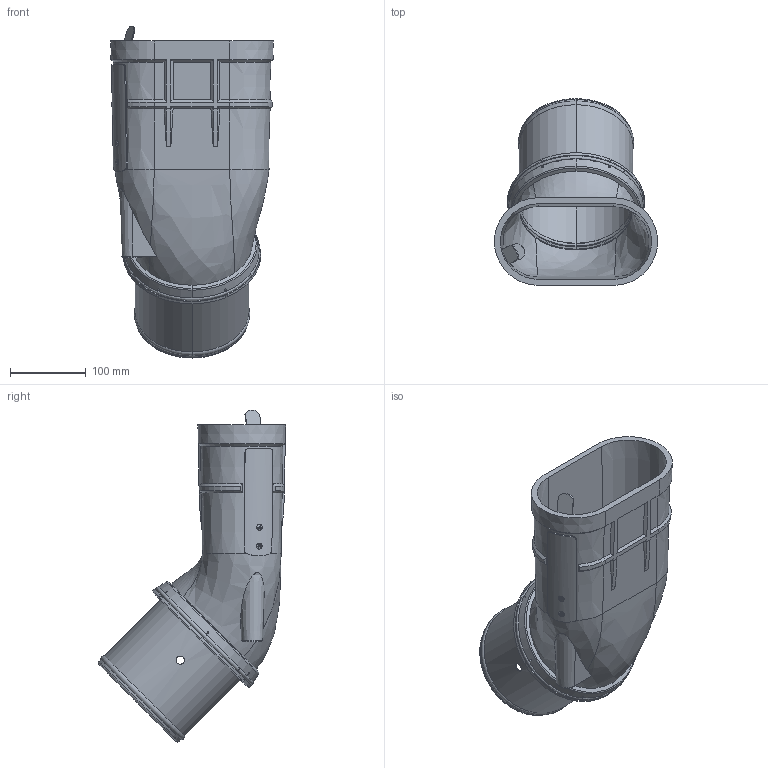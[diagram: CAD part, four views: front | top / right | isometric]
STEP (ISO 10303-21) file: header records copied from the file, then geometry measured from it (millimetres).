
FILE_DESCRIPTION((''),'2;1');
FILE_NAME('124244','2019-06-11T15:07:36',('Tomas Bellgran'),(''),'CREO PARAMETRIC BY PTC INC, 2018260','CREO PARAMETRIC BY PTC INC, 2018260','');
FILE_SCHEMA(('AUTOMOTIVE_DESIGN { 1 0 10303 214 1 1 1 1 }'));
Length unit declared in the file: millimetre
Products named in the file (7): 123944; 9531238; 145-210-3; 111000; 124209; 124214; 124244
Assembly tree (7 placements, depth 2):
  124244
    123944
    9531238
    145-210-3
    111000
    124209  x2
    124214
Bounding box: 216 x 247.71 x 439.52 mm (x, y, z)
Volume: 1072648.9 mm3; surface area: 529647.3 mm2
Topology: 7 solids, 9 shells, 354 faces, 954 edges, 606 vertices
Faces by surface type: plane 115, cylinder 102, cone 59, torus 46, bspline 22, extrusion 6, sphere 4
Entity records: 20087 total; most frequent: CARTESIAN_POINT 7477, ORIENTED_EDGE 1850, DIRECTION 1722, EDGE_CURVE 930, AXIS2_PLACEMENT_3D 674, PRESENTATION_STYLE_ASSIGNMENT 627, STYLED_ITEM 627, CURVE_STYLE 620
